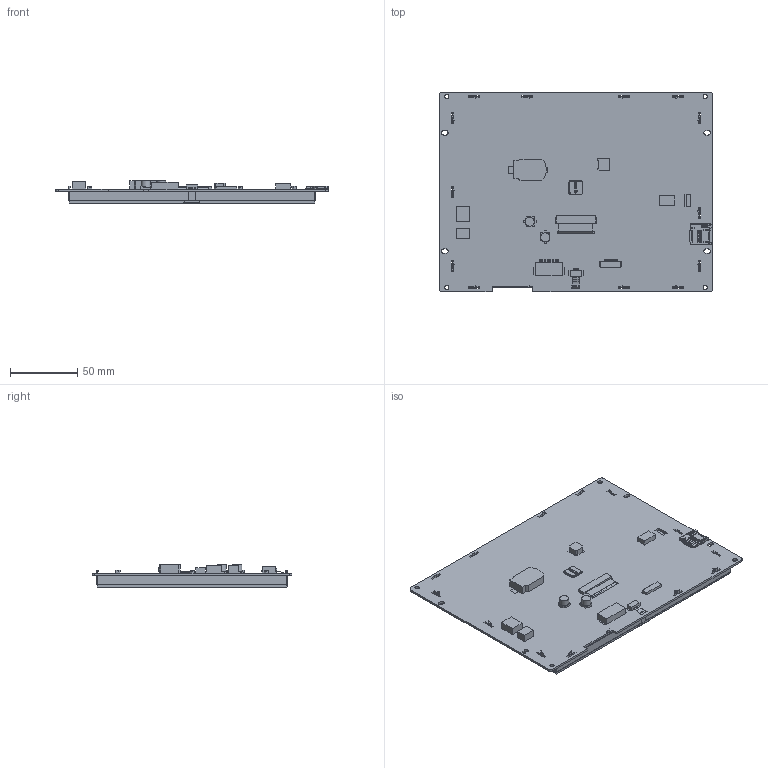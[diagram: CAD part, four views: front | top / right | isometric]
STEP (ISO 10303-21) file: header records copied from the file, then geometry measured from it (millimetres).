
FILE_DESCRIPTION(/* description */ (''),/* implementation_level */ '2;1');
FILE_NAME(/* name */ '',/* time_stamp */ '2021-08-05T10:56:43+08:00',/* author */ (''),/* organization */ (''),/* preprocessor_version */ 'ST-DEVELOPER v11',/* originating_system */ 'SIEMENS PLM Software NX 7.5',/* authorisation */ '');
FILE_SCHEMA (('AP203_CONFIGURATION_CONTROLLED_3D_DESIGN_OF_MECHANICAL_PARTS_AND_ASSEMBLIES_MIM_LF'));
Products named in the file (1): SDWb080T84T
Bounding box: 203.02 x 148.8 x 16.42 mm (x, y, z)
Volume: 99241.6 mm3; surface area: 146585.4 mm2
Topology: 23 solids, 23 shells, 2606 faces, 7621 edges, 5184 vertices
Faces by surface type: plane 2118, cylinder 480, bspline 7, cone 1
Full cylindrical faces by diameter (mm): 3.2 x4, 6.776 x2
Entity records: 88692 total; most frequent: CARTESIAN_POINT 15855, ORIENTED_EDGE 14916, DIRECTION 13674, EDGE_CURVE 7458, LINE 6584, VECTOR 6584, VERTEX_POINT 4893, AXIS2_PLACEMENT_3D 3545
